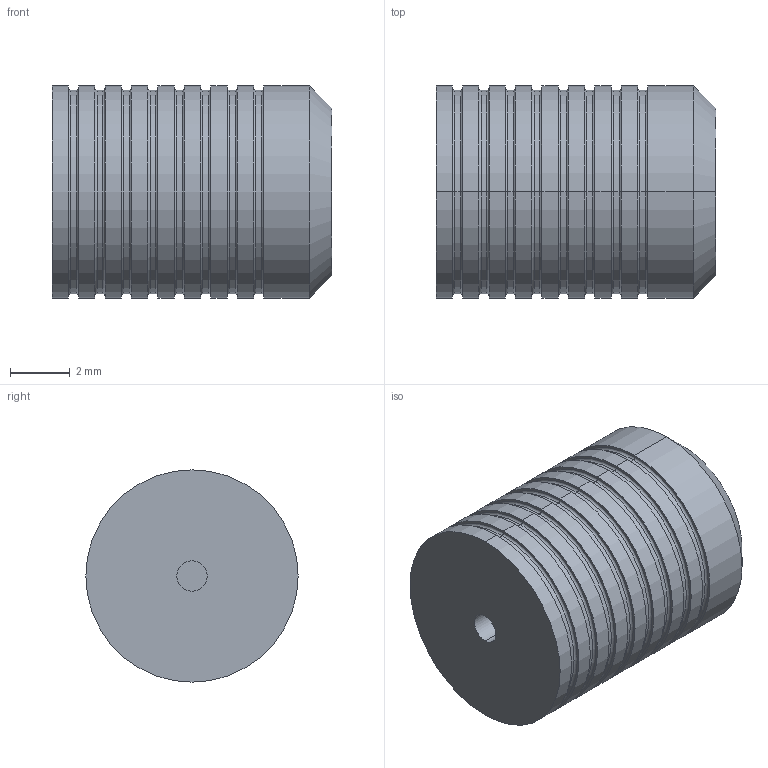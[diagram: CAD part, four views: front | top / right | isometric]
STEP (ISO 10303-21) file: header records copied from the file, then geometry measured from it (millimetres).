
FILE_DESCRIPTION (( 'STEP AP214' ), '1' );
FILE_NAME ('PLGA2811 _ _ 0A.STEP', '2020-02-19T15:55:28', ( 'tlc' ), ( 'Microsoft' ), 'SwSTEP 2.0', 'SolidWorks 2019', '' );
FILE_SCHEMA (( 'AUTOMOTIVE_DESIGN' ));
Length unit declared in the file: inch
Products named in the file (1): PLGA2811 _ _ 0A
Bounding box: 9.4 x 7.13 x 7.13 mm (x, y, z)
Volume: 354.8 mm3; surface area: 342 mm2
Topology: 1 solids, 1 shells, 89 faces, 176 edges, 106 vertices
Faces by surface type: cylinder 36, torus 32, plane 19, cone 2
Entity records: 2376 total; most frequent: DIRECTION 494, CARTESIAN_POINT 372, ORIENTED_EDGE 352, AXIS2_PLACEMENT_3D 228, EDGE_CURVE 176, CIRCLE 138, EDGE_LOOP 106, VERTEX_POINT 106
